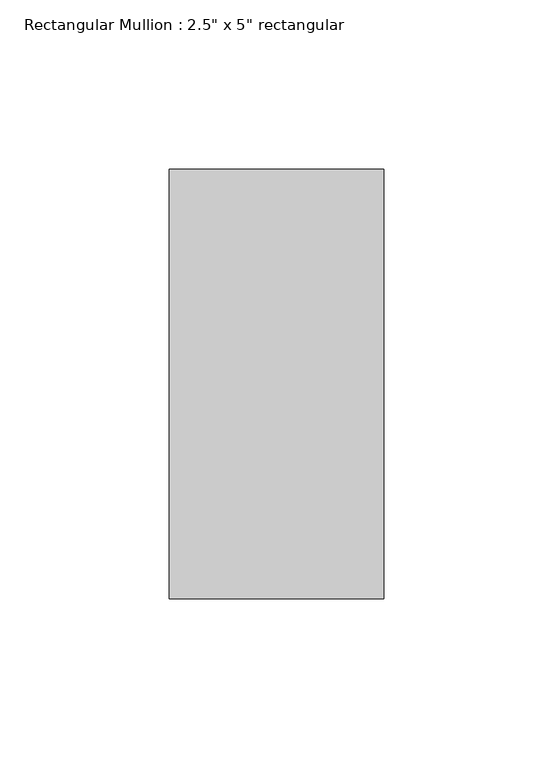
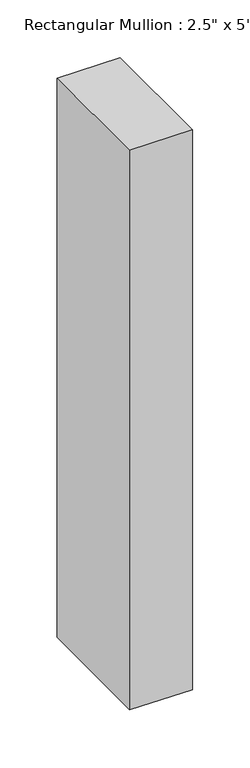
"""IFC4 building model written with IfcOpenShell, lengths in millimetres: member geometry."""

from ifc_helpers import new_model, si_unit, frame, origin, place, context, project, spatial, polyline, outline, extrude, source, transform, mapped, element, save


def member_cde82955(model_context):
    return source(origin(), model_context, "Body", "SweptSolid", [
        extrude(outline(polyline([(0.0, 0.0), (0.4093558, -63.5), (-596.0501037, -63.5), (-597.1655931, 0.0), (0.0, 0.0)])), frame((0.0, -63.5, 0.0), z_axis=(0.0, 1.0, 0.0), x_axis=(0.0, 0.0, 1.0)), (0.0, 0.0, 1.0), 127.0),
    ])


if __name__ == "__main__":
    model = new_model("IFC4")
    model_context = context("Model", 3, world=origin())
    ifc_project = project(units=[si_unit("LENGTHUNIT", "METRE", prefix="MILLI")], contexts=[model_context])
    site = spatial("IfcSite", under=ifc_project)
    building = spatial("IfcBuilding", under=site)
    placement = place(None, origin())
    member_shape = member_cde82955(model_context)
    element("IfcMember", 1, ObjectType="Rectangular Mullion : 2.5\" x 5\" rectangular", at=placement, inside=building, context=model_context, shape_type="MappedRepresentation", body=[
        mapped(member_shape, transform((0.0, 0.0, 0.0), x_axis=(1.0, 0.0, 0.0), y_axis=(0.0, 1.0, 0.0), z_axis=(0.0, 0.0, 1.0))),
    ])
    save(model, "model.ifc")
